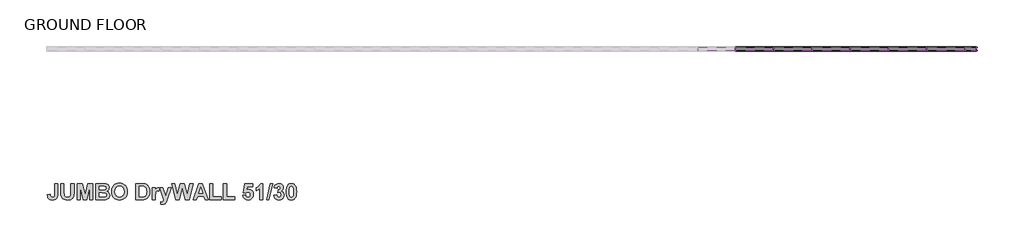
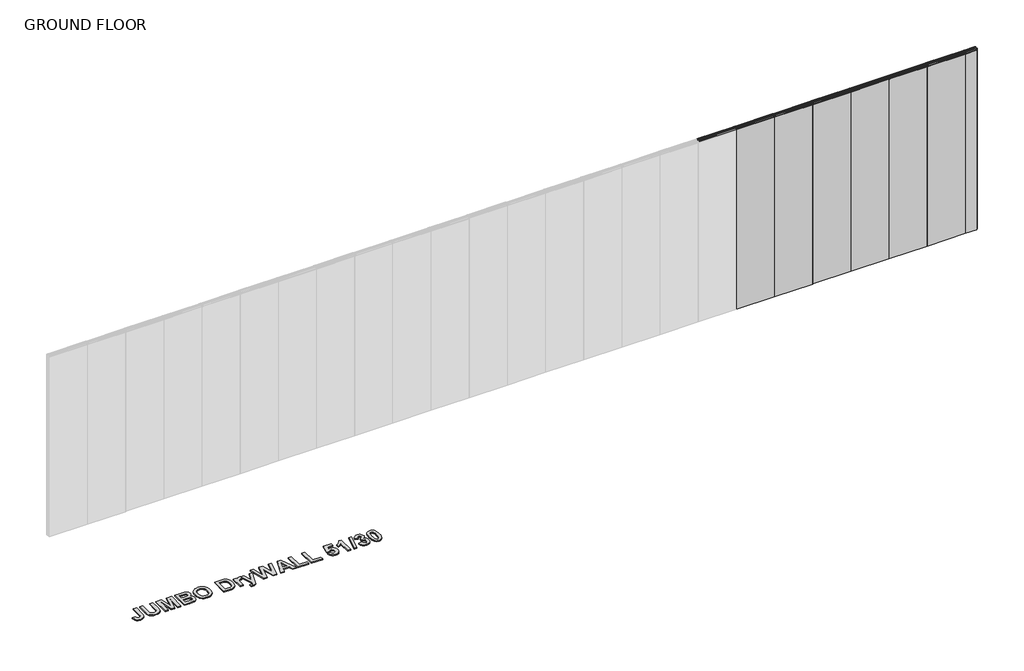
# One storey, part 2 of 2: 23 members, 7 plates, 1 proxy.
"""IFC4 building model written with IfcOpenShell, lengths in millimetres."""

from ifc_helpers import new_model, si_unit, origin, origin_with_axes, place, context, project, spatial, polyline, outline, extrude, transform, mapped, element, save
from components import rectangular_mullion_stud_mullion_51mm_94d3096a, rectangular_mullion_stud_mullion_51mm_2ef0a27f, rectangular_mullion_stud_mullion_51mm_d47c2d60, rectangular_mullion_stud_mullion_51mm_92998b61, rectangular_mullion_stud_mullion_51mm_5f447b16, rectangular_mullion_stud_mullion_51mm_77066ee0, rectangular_mullion_stud_mullion_51mm_8a3d9f1b, rectangular_mullion_stud_mullion_51mm_a83d3118, plate_2_layer_drywall_panels_2_layer_12mm_thick_drywall_a247d09f, plate_2_layer_drywall_panels_2_layer_12mm_thick_drywall_8d42099b

model = new_model("IFC4")

# Units and contexts
model_context = context("Model", 3, world=origin())
ifc_project = project(units=[si_unit("LENGTHUNIT", "METRE", prefix="MILLI")], contexts=[model_context])

# Site, building, storey
site = spatial("IfcSite", under=ifc_project)
building = spatial("IfcBuilding", under=site)
storey = spatial("IfcBuildingStorey", under=building, Name="GROUND FLOOR", Elevation=0.0)

# Proxy
placement = place(None, origin())
element("IfcBuildingElementProxy", 1, Name="600mm Arial", ObjectType="600mm Arial", at=placement, inside=storey, context=model_context, shape_type="SweptSolid", body=[
    extrude(outline(polyline([(61762.9500241, 2630.256024), (61811.5338051, 2630.256024), (61811.5338051, 2469.005949), (61810.1104521, 2441.0133408), (61805.8403932, 2420.2956478), (61795.149431, 2400.2738162), (61778.2589759, 2384.6169336), (61755.0741377, 2374.5111276), (61725.5000263, 2371.1425256), (61691.5293357, 2376.5433594), (61677.8651473, 2383.2944015), (61666.4150635, 2392.7458605), (61657.3530497, 2404.8107537), (61650.8530712, 2419.4020984), (61645.5392201, 2456.1641423), (61694.1230011, 2460.2127907), (61696.3529207, 2441.582682), (61701.1448757, 2429.3418466), (61712.5633294, 2419.0937053), (61728.726293, 2415.6776582), (61744.7073837, 2418.1289883), (61755.200658, 2425.4829785), (61761.0126826, 2440.5388898), (61762.9500241, 2466.0959829), (61762.9500241, 2630.256024)])), origin_with_axes(), (0.0, 0.0, 1.0), 15.0),
    extrude(outline(polyline([(61860.117586, 2630.256024), (61908.701367, 2630.256024), (61908.701367, 2492.6652381), (61910.7889513, 2450.1544298), (61916.8777389, 2436.1185881), (61927.9324469, 2425.1350478), (61943.9530752, 2418.0420056), (61964.9396238, 2415.6776582), (61985.9024499, 2417.9075778), (62000.9662687, 2424.5973367), (62010.6687913, 2434.5370849), (62015.547729, 2446.5169723), (62018.0148741, 2489.692012), (62018.0148741, 2630.256024), (62066.598655, 2630.256024), (62066.598655, 2496.460846), (62062.3602262, 2431.6192113), (62056.3346987, 2414.1673225), (62046.7349738, 2399.6412149), (62033.4266236, 2387.914368), (62016.2752205, 2378.8602617), (61994.2844173, 2373.0719596), (61966.457867, 2371.1425256), (61933.8630842, 2373.245925), (61910.2196101, 2379.5561231), (61893.0602995, 2389.2349232), (61879.9180071, 2401.4441286), (61870.682028, 2415.2506523), (61865.2416567, 2429.7214074), (61861.3986037, 2456.8283737), (61860.117586, 2494.3732617), (61860.117586, 2630.256024)])), origin_with_axes(), (0.0, 0.0, 1.0), 15.0),
    extrude(outline(polyline([(62115.182436, 2375.191174), (62115.182436, 2630.256024), (62198.432769, 2630.256024), (62238.6662126, 2456.2906626), (62278.8996562, 2630.256024), (62362.1499892, 2630.256024), (62362.1499892, 2375.191174), (62313.5662082, 2375.191174), (62311.541884, 2575.9788313), (62267.1332717, 2375.191174), (62210.2624136, 2375.191174), (62165.7905412, 2575.9788313), (62163.7662169, 2375.191174), (62115.182436, 2375.191174)])), origin_with_axes(), (0.0, 0.0, 1.0), 15.0),
    extrude(outline(polyline([(62410.7337701, 2630.256024), (62515.4292877, 2630.256024), (62561.7673339, 2627.7256188), (62589.0957107, 2617.1295468), (62600.1425112, 2607.7354172), (62609.1808025, 2595.6843622), (62615.20633, 2581.4903702), (62617.2148391, 2565.6674298), (62614.8188617, 2548.429044), (62607.6309292, 2532.6456412), (62596.3310883, 2519.4717188), (62581.5993851, 2510.0617743), (62600.2294939, 2500.9206853), (62613.9885724, 2487.0350864), (62622.4812451, 2469.3380647), (62625.312136, 2448.7627069), (62623.2799042, 2431.6745639), (62617.1832091, 2415.0766869), (62607.5676691, 2400.3687064), (62594.9789029, 2388.9502526), (62579.2666678, 2381.0506437), (62560.2807208, 2376.8991976), (62497.9062312, 2375.191174), (62410.7337701, 2375.191174), (62410.7337701, 2630.256024)]), holes=[polyline([(62459.3175511, 2585.7208915), (62459.3175511, 2529.0398137), (62496.3879881, 2529.0398137), (62537.5070735, 2529.8621954), (62550.4516779, 2532.8196066), (62560.3123509, 2538.6553537), (62566.5513814, 2547.0847662), (62568.6310582, 2557.8231735), (62566.836052, 2568.0950374), (62561.4510333, 2576.2635018), (62552.5392623, 2581.9806362), (62540.163999, 2584.8985098), (62491.8332586, 2585.7208915), (62459.3175511, 2585.7208915)]), polyline([(62459.3175511, 2484.5046812), (62459.3175511, 2419.7263066), (62510.6847778, 2419.7263066), (62548.7673769, 2421.2445497), (62560.0118653, 2424.6368743), (62568.9473589, 2430.8917198), (62574.783106, 2439.882566), (62576.728355, 2451.4828926), (62575.2259269, 2461.5412535), (62570.7186425, 2469.954851), (62553.3853665, 2481.025374), (62504.1689843, 2484.5046812), (62459.3175511, 2484.5046812)])]), origin_with_axes(), (0.0, 0.0, 1.0), 15.0),
    extrude(outline(polyline([(62657.7013233, 2501.1420958), (62660.5638442, 2536.9157001), (62669.1514071, 2566.4265514), (62679.2493055, 2584.8589722), (62692.4627655, 2601.3145139), (62707.9377752, 2614.7810144), (62724.8203227, 2624.2463116), (62750.0294851, 2631.7900822), (62778.844475, 2634.3046725), (62805.1369671, 2632.1241748), (62828.6618285, 2625.5826818), (62849.4190591, 2614.6801935), (62867.408659, 2599.41671), (62881.9387205, 2580.2706358), (62892.3173358, 2557.7203758), (62898.544505, 2531.76593), (62900.620228, 2502.4072984), (62898.56032, 2473.2483315), (62892.3805959, 2447.4500592), (62882.0810558, 2425.0124813), (62867.6616995, 2405.9355979), (62849.7907124, 2390.7136288), (62829.1362795, 2379.8407937), (62805.6984008, 2373.3170927), (62779.4770763, 2371.1425256), (62752.9789887, 2373.3072083), (62729.3434221, 2379.8012561), (62708.5703765, 2390.6246692), (62690.6598518, 2405.7774476), (62676.2404955, 2424.7258339), (62665.9409554, 2446.9360706), (62659.7612313, 2472.4081579), (62657.7013233, 2501.1420958)]), holes=[polyline([(62706.2851042, 2502.9133794), (62711.4487125, 2465.162896), (62717.9032227, 2450.1900136), (62726.9395371, 2437.8187042), (62750.3853234, 2421.2129197), (62779.4138162, 2415.6776582), (62808.3790489, 2421.1733821), (62831.6350547, 2437.6605539), (62840.5606639, 2450.0259327), (62846.936099, 2465.1391734), (62852.0364471, 2503.6092409), (62847.0705268, 2541.5020596), (62840.8631264, 2556.3207454), (62832.1727658, 2568.3876155), (62809.0511878, 2584.4240588), (62779.4138162, 2589.7695399), (62749.7131845, 2584.3607987), (62726.401826, 2568.134575), (62717.6007602, 2555.9451384), (62711.3142847, 2541.0117936), (62706.2851042, 2502.9133794)])]), origin_with_axes(), (0.0, 0.0, 1.0), 15.0),
    extrude(outline(polyline([(63038.2742741, 2630.256024), (63132.7216503, 2630.256024), (63160.8724088, 2629.0382665), (63181.4319515, 2625.3849939), (63202.339425, 2616.1885523), (63220.0206317, 2601.8838551), (63234.1671786, 2583.1272261), (63244.4706725, 2560.5749893), (63250.7571481, 2533.270335), (63252.8526399, 2500.2564539), (63250.8915758, 2470.9670131), (63245.0083836, 2445.9792611), (63233.3368894, 2420.8017288), (63217.5534866, 2400.9380475), (63201.7700838, 2389.3298134), (63181.2421711, 2380.5682852), (63161.2677846, 2376.5354518), (63135.5050961, 2375.191174), (63038.2742741, 2375.191174), (63038.2742741, 2630.256024)]), holes=[polyline([(63086.858055, 2585.7208915), (63086.858055, 2419.7263066), (63128.230181, 2419.7263066), (63161.7580506, 2422.1301916), (63184.1205071, 2432.5364832), (63192.1940814, 2442.2706359), (63198.6387073, 2456.7334835), (63202.861321, 2476.6287948), (63204.268859, 2502.6603389), (63202.861321, 2528.3281372), (63198.6387073, 2547.2587316), (63191.8935957, 2561.1127004), (63182.9185646, 2571.5506221), (63171.4605733, 2578.8571672), (63157.2665813, 2583.3170065), (63111.7825468, 2585.7208915), (63086.858055, 2585.7208915)])]), origin_with_axes(), (0.0, 0.0, 1.0), 15.0),
    extrude(outline(polyline([(63341.922905, 2375.191174), (63293.339124, 2375.191174), (63293.339124, 2561.429001), (63341.922905, 2561.429001), (63341.922905, 2535.4923471), (63361.3437653, 2559.6893474), (63380.9544061, 2565.4776494), (63396.1210226, 2562.9156141), (63410.749928, 2555.2295081), (63396.5796586, 2508.9863521), (63384.8765342, 2514.9169894), (63374.0590518, 2516.8938685), (63356.9471862, 2511.358607), (63350.7002482, 2503.6013334), (63345.9399233, 2491.4000355), (63341.922905, 2430.9233499), (63341.922905, 2375.191174)])), origin_with_axes(), (0.0, 0.0, 1.0), 15.0),
    extrude(outline(polyline([(63410.749928, 2561.429001), (63459.333709, 2561.429001), (63501.8445173, 2429.5948871), (63544.3553256, 2561.429001), (63592.9391066, 2561.429001), (63529.9320156, 2382.9721702), (63518.2288913, 2349.8238613), (63506.6839173, 2326.2278323), (63494.0635211, 2313.0064648), (63476.5088346, 2305.1305785), (63453.0076958, 2302.3155026), (63426.9445217, 2305.0989484), (63422.8958732, 2341.0939632), (63442.1902133, 2338.7533383), (63455.9571994, 2341.3232812), (63465.628092, 2349.0331097), (63477.2995863, 2375.191174), (63410.749928, 2561.429001)])), origin_with_axes(), (0.0, 0.0, 1.0), 15.0),
    extrude(outline(polyline([(64171.8958296, 2375.191174), (64120.8449035, 2375.191174), (64100.8547019, 2431.8722518), (64004.5095218, 2431.8722518), (63984.7723607, 2375.191174), (63933.0255732, 2375.191174), (64026.1444867, 2630.256024), (64077.8912742, 2630.256024), (64171.8958296, 2375.191174)]), holes=[polyline([(64085.2927096, 2476.4073844), (64052.4607014, 2569.5262979), (64020.0715141, 2476.4073844), (64085.2927096, 2476.4073844)])]), origin_with_axes(), (0.0, 0.0, 1.0), 15.0),
    extrude(outline(polyline([(63661.1967884, 2375.191174), (63596.987755, 2630.256024), (63646.8367386, 2630.256024), (63688.0823443, 2455.0254599), (63732.4276964, 2630.256024), (63797.7754122, 2630.256024), (63841.9309839, 2452.1154939), (63883.1765896, 2630.256024), (63933.0255732, 2630.256024), (63869.7654418, 2375.191174), (63812.2619823, 2375.191174), (63765.0066641, 2565.8572102), (63716.8024439, 2375.191174), (63661.1967884, 2375.191174)])), origin_with_axes(), (0.0, 0.0, 1.0), 15.0),
    extrude(outline(polyline([(64196.18772, 2375.191174), (64196.18772, 2630.256024), (64244.771501, 2630.256024), (64244.771501, 2419.7263066), (64374.3282502, 2419.7263066), (64374.3282502, 2375.191174), (64196.18772, 2375.191174)])), origin_with_axes(), (0.0, 0.0, 1.0), 15.0),
    extrude(outline(polyline([(64410.7660859, 2375.191174), (64410.7660859, 2630.256024), (64459.3498668, 2630.256024), (64459.3498668, 2419.7263066), (64588.906616, 2419.7263066), (64588.906616, 2375.191174), (64410.7660859, 2375.191174)])), origin_with_axes(), (0.0, 0.0, 1.0), 15.0),
    extrude(outline(polyline([(64714.4147168, 2446.9914232), (64758.9498494, 2452.1154939), (64763.093388, 2437.0437676), (64771.3488351, 2425.4829785), (64782.4509882, 2418.1289883), (64795.1346446, 2415.6776582), (64809.3286366, 2418.2792311), (64821.1661887, 2426.0839498), (64829.1606878, 2439.1234444), (64831.8255208, 2457.4293449), (64829.3504682, 2474.5886556), (64821.9253102, 2486.8453061), (64810.5305791, 2494.1992963), (64796.1468067, 2496.6506264), (64777.3269176, 2491.5898159), (64760.5946128, 2476.4073844), (64718.4633652, 2482.6701374), (64746.8039041, 2626.2073756), (64868.2633565, 2626.2073756), (64868.2633565, 2577.6235947), (64786.0884458, 2577.6235947), (64776.2831254, 2531.2539183), (64791.7660426, 2538.7027988), (64807.5968905, 2541.185759), (64835.7160189, 2535.4369945), (64859.2171577, 2518.1907012), (64875.1112657, 2491.7716888), (64880.4093018, 2458.5047672), (64875.9969076, 2429.5790721), (64862.7597251, 2403.9112737), (64849.5423114, 2389.5749464), (64833.9921803, 2379.3347127), (64816.1093319, 2373.1905724), (64795.8937661, 2371.1425256), (64764.8883942, 2376.2824113), (64740.1932204, 2391.7020684), (64722.9785571, 2415.8041784), (64714.4147168, 2446.9914232)])), origin_with_axes(), (0.0, 0.0, 1.0), 15.0),
    extrude(outline(polyline([(65030.209293, 2375.191174), (64981.6255121, 2375.191174), (64981.6255121, 2557.5068729), (64953.5696438, 2533.6261733), (64920.8957859, 2516.8938685), (64920.8957859, 2565.4776494), (64940.3640913, 2574.5633858), (64961.4455301, 2589.2950889), (64979.9016735, 2608.3126659), (64991.4940926, 2630.256024), (65030.209293, 2630.256024), (65030.209293, 2375.191174)])), origin_with_axes(), (0.0, 0.0, 1.0), 15.0),
    extrude(outline(polyline([(65086.0047289, 2375.191174), (65146.7344551, 2630.256024), (65184.0579327, 2630.256024), (65123.3282065, 2375.191174), (65086.0047289, 2375.191174)])), origin_with_axes(), (0.0, 0.0, 1.0), 15.0),
    extrude(outline(polyline([(65200.2525263, 2446.4853422), (65248.8363073, 2452.1154939), (65252.5844701, 2436.4902414), (65259.78031, 2425.0401576), (65269.6330755, 2418.018283), (65281.3520149, 2415.6776582), (65293.924966, 2418.3583062), (65304.3154426, 2426.4002505), (65311.2898721, 2438.9811091), (65313.6146819, 2455.2785005), (65311.48756, 2470.6981575), (65305.1061942, 2482.5436171), (65295.6567121, 2490.0873878), (65284.325241, 2492.601978), (65265.0309009, 2488.9961505), (65269.2693297, 2529.0398137), (65283.099576, 2530.7794673), (65293.2132895, 2537.0105903), (65299.4048749, 2546.8791708), (65301.4687367, 2559.5311971), (65299.9267709, 2570.2775119), (65295.3008738, 2578.6041267), (65288.1129414, 2583.9417003), (65278.8848697, 2585.7208915), (65269.4986477, 2583.6570297), (65261.5832238, 2577.4654443), (65255.8186443, 2567.3042857), (65252.8849557, 2553.3317042), (65204.3011748, 2560.6066193), (65209.8601588, 2582.344382), (65217.6806926, 2599.2269296), (65228.4032848, 2612.1399039), (65242.6684445, 2621.9689468), (65259.6616973, 2628.1842547), (65278.5685691, 2630.256024), (65309.2181028, 2624.5151671), (65322.0045568, 2617.3390959), (65333.0988024, 2607.2925963), (65345.8140888, 2587.2707647), (65350.0525176, 2564.781788), (65347.7791066, 2548.8362811), (65340.9588737, 2534.5908903), (65329.5918188, 2522.0456154), (65313.677942, 2511.2004567), (65333.5416233, 2503.6487785), (65348.9770954, 2490.3562433), (65358.893121, 2472.4931637), (65362.1984628, 2451.229852), (65356.3389932, 2420.4617056), (65338.7605841, 2394.5804043), (65326.3240377, 2384.3263324), (65312.452277, 2377.0019953), (65280.4031129, 2371.1425256), (65250.1410475, 2376.353579), (65225.5249489, 2391.9867389), (65208.3102856, 2416.0334964), (65200.2525263, 2446.4853422)])), origin_with_axes(), (0.0, 0.0, 1.0), 15.0),
    extrude(outline(polyline([(65475.5606184, 2630.256024), (65492.6922527, 2628.6112606), (65507.8391005, 2623.6769704), (65521.0011616, 2615.4531533), (65532.178436, 2603.9398094), (65542.8338144, 2585.8118279), (65550.444799, 2562.5518684), (65555.0113897, 2534.1599306), (65556.5335866, 2500.6360147), (65555.0034822, 2467.1437289), (65550.4131689, 2438.7201611), (65542.7626468, 2415.3653113), (65532.0519158, 2397.0791795), (65520.9299939, 2385.7318935), (65507.8074704, 2377.6266891), (65492.6843452, 2372.7635665), (65475.5606184, 2371.1425256), (65458.2530418, 2372.9217168), (65442.7048876, 2378.2592904), (65428.9161558, 2387.1552464), (65416.8868465, 2399.6095848), (65407.1309481, 2416.6305139), (65400.1624492, 2439.2262421), (65395.9813499, 2467.3967694), (65394.5876501, 2501.1420958), (65396.1177546, 2534.4683238), (65400.7080679, 2562.7732788), (65408.35859, 2586.0569609), (65419.069321, 2604.3193701), (65430.1912429, 2615.6666562), (65443.3137664, 2623.7718606), (65458.4368916, 2628.6349832), (65475.5606184, 2630.256024)]), holes=[polyline([(65475.5606184, 2585.7208915), (65459.3660247, 2580.3754104), (65453.0400116, 2572.9028074), (65448.3587619, 2561.1759605), (65444.4682638, 2537.0264053), (65443.1714311, 2500.6360147), (65444.3259285, 2464.7279826), (65447.7894207, 2442.1520232), (65453.016289, 2428.8990256), (65459.4609149, 2420.9598792), (65475.5606184, 2415.6776582), (65491.755212, 2421.0231393), (65498.0812252, 2428.4957423), (65502.7624749, 2440.2225892), (65506.652973, 2464.2456241), (65507.9498057, 2500.6360147), (65506.7953083, 2536.5045092), (65503.3318161, 2559.0883762), (65498.1049477, 2572.3809113), (65491.6603218, 2580.3754104), (65475.5606184, 2585.7208915)])]), origin_with_axes(), (0.0, 0.0, 1.0), 15.0),
])

# Members
rectangular_mullion_stud_mullion_51mm_shape = rectangular_mullion_stud_mullion_51mm_94d3096a(model_context)
element("IfcMember", 2, ObjectType="Rectangular Mullion : Stud Mullion - 51mm", at=placement, inside=storey, context=model_context, shape_type="MappedRepresentation", body=[
    mapped(rectangular_mullion_stud_mullion_51mm_shape, transform((76216.5186508, 4740.5989557, 3000.0), x_axis=(0.0, 0.0, 1.0), y_axis=(0.0, -1.0, 0.0), z_axis=(1.0, 0.0, 0.0))),
])
rectangular_mullion_stud_mullion_51mm_2_shape = rectangular_mullion_stud_mullion_51mm_2ef0a27f(model_context)
element("IfcMember", 3, ObjectType="Rectangular Mullion : Stud Mullion - 51mm", at=placement, inside=storey, context=model_context, shape_type="MappedRepresentation", body=[
    mapped(rectangular_mullion_stud_mullion_51mm_2_shape, transform((72454.5186511, 4740.5989557, 0.0), x_axis=(0.0, 0.0, -1.0), y_axis=(0.0, -1.0, 0.0), z_axis=(-1.0, 0.0, 0.0))),
])
element("IfcMember", 4, ObjectType="Rectangular Mullion : Stud Mullion - 51mm", at=placement, inside=storey, context=model_context, shape_type="MappedRepresentation", body=[
    mapped(rectangular_mullion_stud_mullion_51mm_2_shape, transform((73054.5186511, 4740.5989557, 0.0), x_axis=(0.0, 0.0, -1.0), y_axis=(0.0, -1.0, 0.0), z_axis=(-1.0, 0.0, 0.0))),
])
element("IfcMember", 5, ObjectType="Rectangular Mullion : Stud Mullion - 51mm", at=placement, inside=storey, context=model_context, shape_type="MappedRepresentation", body=[
    mapped(rectangular_mullion_stud_mullion_51mm_2_shape, transform((73654.5186511, 4740.5989557, 0.0), x_axis=(0.0, 0.0, -1.0), y_axis=(0.0, -1.0, 0.0), z_axis=(-1.0, 0.0, 0.0))),
])
element("IfcMember", 6, ObjectType="Rectangular Mullion : Stud Mullion - 51mm", at=placement, inside=storey, context=model_context, shape_type="MappedRepresentation", body=[
    mapped(rectangular_mullion_stud_mullion_51mm_2_shape, transform((74254.5186511, 4740.5989557, 0.0), x_axis=(0.0, 0.0, -1.0), y_axis=(0.0, -1.0, 0.0), z_axis=(-1.0, 0.0, 0.0))),
])
element("IfcMember", 7, ObjectType="Rectangular Mullion : Stud Mullion - 51mm", at=placement, inside=storey, context=model_context, shape_type="MappedRepresentation", body=[
    mapped(rectangular_mullion_stud_mullion_51mm_2_shape, transform((74854.5186511, 4740.5989557, 0.0), x_axis=(0.0, 0.0, -1.0), y_axis=(0.0, -1.0, 0.0), z_axis=(-1.0, 0.0, 0.0))),
])
element("IfcMember", 8, ObjectType="Rectangular Mullion : Stud Mullion - 51mm", at=placement, inside=storey, context=model_context, shape_type="MappedRepresentation", body=[
    mapped(rectangular_mullion_stud_mullion_51mm_2_shape, transform((75454.5186511, 4740.5989557, 0.0), x_axis=(0.0, 0.0, -1.0), y_axis=(0.0, -1.0, 0.0), z_axis=(-1.0, 0.0, 0.0))),
])
rectangular_mullion_stud_mullion_51mm_3_shape = rectangular_mullion_stud_mullion_51mm_d47c2d60(model_context)
element("IfcMember", 9, ObjectType="Rectangular Mullion : Stud Mullion - 51mm", at=placement, inside=storey, context=model_context, shape_type="MappedRepresentation", body=[
    mapped(rectangular_mullion_stud_mullion_51mm_3_shape, transform((76235.5186508, 4740.5989557, 0.0), x_axis=(1.0, 0.0, 0.0), y_axis=(0.0, -1.0, 0.0), z_axis=(0.0, 0.0, -1.0))),
])
rectangular_mullion_stud_mullion_51mm_4_shape = rectangular_mullion_stud_mullion_51mm_92998b61(model_context)
element("IfcMember", 10, ObjectType="Rectangular Mullion : Stud Mullion - 51mm", at=placement, inside=storey, context=model_context, shape_type="MappedRepresentation", body=[
    mapped(rectangular_mullion_stud_mullion_51mm_4_shape, transform((72435.5186511, 4740.5989557, 3000.0), x_axis=(0.0, 0.0, 1.0), y_axis=(0.0, -1.0, 0.0), z_axis=(1.0, 0.0, 0.0))),
])
element("IfcMember", 11, ObjectType="Rectangular Mullion : Stud Mullion - 51mm", at=placement, inside=storey, context=model_context, shape_type="MappedRepresentation", body=[
    mapped(rectangular_mullion_stud_mullion_51mm_4_shape, transform((73035.5186511, 4740.5989557, 3000.0), x_axis=(0.0, 0.0, 1.0), y_axis=(0.0, -1.0, 0.0), z_axis=(1.0, 0.0, 0.0))),
])
element("IfcMember", 12, ObjectType="Rectangular Mullion : Stud Mullion - 51mm", at=placement, inside=storey, context=model_context, shape_type="MappedRepresentation", body=[
    mapped(rectangular_mullion_stud_mullion_51mm_4_shape, transform((73635.5186511, 4740.5989557, 3000.0), x_axis=(0.0, 0.0, 1.0), y_axis=(0.0, -1.0, 0.0), z_axis=(1.0, 0.0, 0.0))),
])
element("IfcMember", 13, ObjectType="Rectangular Mullion : Stud Mullion - 51mm", at=placement, inside=storey, context=model_context, shape_type="MappedRepresentation", body=[
    mapped(rectangular_mullion_stud_mullion_51mm_4_shape, transform((74235.5186511, 4740.5989557, 3000.0), x_axis=(0.0, 0.0, 1.0), y_axis=(0.0, -1.0, 0.0), z_axis=(1.0, 0.0, 0.0))),
])
element("IfcMember", 14, ObjectType="Rectangular Mullion : Stud Mullion - 51mm", at=placement, inside=storey, context=model_context, shape_type="MappedRepresentation", body=[
    mapped(rectangular_mullion_stud_mullion_51mm_4_shape, transform((76035.5186511, 4740.5989557, 3000.0), x_axis=(0.0, 0.0, 1.0), y_axis=(0.0, -1.0, 0.0), z_axis=(1.0, 0.0, 0.0))),
])
rectangular_mullion_stud_mullion_51mm_5_shape = rectangular_mullion_stud_mullion_51mm_5f447b16(model_context)
element("IfcMember", 15, ObjectType="Rectangular Mullion : Stud Mullion - 51mm", at=placement, inside=storey, context=model_context, shape_type="MappedRepresentation", body=[
    mapped(rectangular_mullion_stud_mullion_51mm_5_shape, transform((74845.0186511, 4740.5989557, 3000.0), x_axis=(0.0, 0.0, 1.0), y_axis=(0.0, -1.0, 0.0), z_axis=(1.0, 0.0, 0.0))),
])
element("IfcMember", 16, ObjectType="Rectangular Mullion : Stud Mullion - 51mm", at=placement, inside=storey, context=model_context, shape_type="MappedRepresentation", body=[
    mapped(rectangular_mullion_stud_mullion_51mm_5_shape, transform((75435.5186511, 4740.5989557, 3000.0), x_axis=(0.0, 0.0, 1.0), y_axis=(0.0, -1.0, 0.0), z_axis=(1.0, 0.0, 0.0))),
])
rectangular_mullion_stud_mullion_51mm_6_shape = rectangular_mullion_stud_mullion_51mm_77066ee0(model_context)
element("IfcMember", 17, ObjectType="Rectangular Mullion : Stud Mullion - 51mm", at=placement, inside=storey, context=model_context, shape_type="MappedRepresentation", body=[
    mapped(rectangular_mullion_stud_mullion_51mm_6_shape, transform((76054.5186511, 4740.5989557, 0.0), x_axis=(0.0, 0.0, -1.0), y_axis=(0.0, -1.0, 0.0), z_axis=(-1.0, 0.0, 0.0))),
])
rectangular_mullion_stud_mullion_51mm_7_shape = rectangular_mullion_stud_mullion_51mm_8a3d9f1b(model_context)
element("IfcMember", 18, ObjectType="Rectangular Mullion : Stud Mullion - 51mm", at=placement, inside=storey, context=model_context, shape_type="MappedRepresentation", body=[
    mapped(rectangular_mullion_stud_mullion_51mm_7_shape, transform((72445.0186511, 4740.5989557, 0.0), x_axis=(1.0, 0.0, 0.0), y_axis=(0.0, -1.0, 0.0), z_axis=(0.0, 0.0, -1.0))),
])
element("IfcMember", 19, ObjectType="Rectangular Mullion : Stud Mullion - 51mm", at=placement, inside=storey, context=model_context, shape_type="MappedRepresentation", body=[
    mapped(rectangular_mullion_stud_mullion_51mm_7_shape, transform((73045.0186511, 4740.5989557, 0.0), x_axis=(1.0, 0.0, 0.0), y_axis=(0.0, -1.0, 0.0), z_axis=(0.0, 0.0, -1.0))),
])
element("IfcMember", 20, ObjectType="Rectangular Mullion : Stud Mullion - 51mm", at=placement, inside=storey, context=model_context, shape_type="MappedRepresentation", body=[
    mapped(rectangular_mullion_stud_mullion_51mm_7_shape, transform((73645.0186511, 4740.5989557, 0.0), x_axis=(1.0, 0.0, 0.0), y_axis=(0.0, -1.0, 0.0), z_axis=(0.0, 0.0, -1.0))),
])
element("IfcMember", 21, ObjectType="Rectangular Mullion : Stud Mullion - 51mm", at=placement, inside=storey, context=model_context, shape_type="MappedRepresentation", body=[
    mapped(rectangular_mullion_stud_mullion_51mm_7_shape, transform((74245.0186511, 4740.5989557, 0.0), x_axis=(1.0, 0.0, 0.0), y_axis=(0.0, -1.0, 0.0), z_axis=(0.0, 0.0, -1.0))),
])
element("IfcMember", 22, ObjectType="Rectangular Mullion : Stud Mullion - 51mm", at=placement, inside=storey, context=model_context, shape_type="MappedRepresentation", body=[
    mapped(rectangular_mullion_stud_mullion_51mm_7_shape, transform((75445.0186511, 4740.5989557, 0.0), x_axis=(1.0, 0.0, 0.0), y_axis=(0.0, -1.0, 0.0), z_axis=(0.0, 0.0, -1.0))),
])
element("IfcMember", 23, ObjectType="Rectangular Mullion : Stud Mullion - 51mm", at=placement, inside=storey, context=model_context, shape_type="MappedRepresentation", body=[
    mapped(rectangular_mullion_stud_mullion_51mm_7_shape, transform((76045.0186511, 4740.5989557, 0.0), x_axis=(1.0, 0.0, 0.0), y_axis=(0.0, -1.0, 0.0), z_axis=(0.0, 0.0, -1.0))),
])
rectangular_mullion_stud_mullion_51mm_8_shape = rectangular_mullion_stud_mullion_51mm_a83d3118(model_context)
element("IfcMember", 24, ObjectType="Rectangular Mullion : Stud Mullion - 51mm", at=placement, inside=storey, context=model_context, shape_type="MappedRepresentation", body=[
    mapped(rectangular_mullion_stud_mullion_51mm_8_shape, transform((74845.0186511, 4740.5989557, 0.0), x_axis=(1.0, 0.0, 0.0), y_axis=(0.0, -1.0, 0.0), z_axis=(0.0, 0.0, -1.0))),
])

# Plates
plate_2_layer_drywall_panels_2_layer_12mm_thick_drywall_shape = plate_2_layer_drywall_panels_2_layer_12mm_thick_drywall_a247d09f(model_context)
element("IfcPlate", 25, ObjectType="2 Layer - Drywall Panels : 2 Layer - 12mm thick Drywall Panels 76mm", at=placement, inside=storey, context=model_context, shape_type="MappedRepresentation", body=[
    mapped(plate_2_layer_drywall_panels_2_layer_12mm_thick_drywall_shape, transform((72736.3186511, 4740.5989557, 1.6), x_axis=(1.0, 0.0, 0.0), y_axis=(0.0, 1.0, 0.0), z_axis=(0.0, 0.0, 1.0))),
])
element("IfcPlate", 26, ObjectType="2 Layer - Drywall Panels : 2 Layer - 12mm thick Drywall Panels 76mm", at=placement, inside=storey, context=model_context, shape_type="MappedRepresentation", body=[
    mapped(plate_2_layer_drywall_panels_2_layer_12mm_thick_drywall_shape, transform((73336.3186511, 4740.5989557, 1.6), x_axis=(1.0, 0.0, 0.0), y_axis=(0.0, 1.0, 0.0), z_axis=(0.0, 0.0, 1.0))),
])
element("IfcPlate", 27, ObjectType="2 Layer - Drywall Panels : 2 Layer - 12mm thick Drywall Panels 76mm", at=placement, inside=storey, context=model_context, shape_type="MappedRepresentation", body=[
    mapped(plate_2_layer_drywall_panels_2_layer_12mm_thick_drywall_shape, transform((73936.3186511, 4740.5989557, 1.6), x_axis=(1.0, 0.0, 0.0), y_axis=(0.0, 1.0, 0.0), z_axis=(0.0, 0.0, 1.0))),
])
element("IfcPlate", 28, ObjectType="2 Layer - Drywall Panels : 2 Layer - 12mm thick Drywall Panels 76mm", at=placement, inside=storey, context=model_context, shape_type="MappedRepresentation", body=[
    mapped(plate_2_layer_drywall_panels_2_layer_12mm_thick_drywall_shape, transform((74536.3186511, 4740.5989557, 1.6), x_axis=(1.0, 0.0, 0.0), y_axis=(0.0, 1.0, 0.0), z_axis=(0.0, 0.0, 1.0))),
])
element("IfcPlate", 29, ObjectType="2 Layer - Drywall Panels : 2 Layer - 12mm thick Drywall Panels 76mm", at=placement, inside=storey, context=model_context, shape_type="MappedRepresentation", body=[
    mapped(plate_2_layer_drywall_panels_2_layer_12mm_thick_drywall_shape, transform((75136.3186511, 4740.5989557, 1.6), x_axis=(1.0, 0.0, 0.0), y_axis=(0.0, 1.0, 0.0), z_axis=(0.0, 0.0, 1.0))),
])
element("IfcPlate", 30, ObjectType="2 Layer - Drywall Panels : 2 Layer - 12mm thick Drywall Panels 76mm", at=placement, inside=storey, context=model_context, shape_type="MappedRepresentation", body=[
    mapped(plate_2_layer_drywall_panels_2_layer_12mm_thick_drywall_shape, transform((75736.3186511, 4740.5989557, 1.6), x_axis=(1.0, 0.0, 0.0), y_axis=(0.0, 1.0, 0.0), z_axis=(0.0, 0.0, 1.0))),
])
plate_2_layer_drywall_panels_2_layer_12mm_thick_drywall_2_shape = plate_2_layer_drywall_panels_2_layer_12mm_thick_drywall_8d42099b(model_context)
element("IfcPlate", 31, ObjectType="2 Layer - Drywall Panels : 2 Layer - 12mm thick Drywall Panels 76mm", at=placement, inside=storey, context=model_context, shape_type="MappedRepresentation", body=[
    mapped(plate_2_layer_drywall_panels_2_layer_12mm_thick_drywall_2_shape, transform((76126.818651, 4740.5989557, 1.6), x_axis=(1.0, 0.0, 0.0), y_axis=(0.0, 1.0, 0.0), z_axis=(0.0, 0.0, 1.0))),
])

save(model, "model.ifc")
